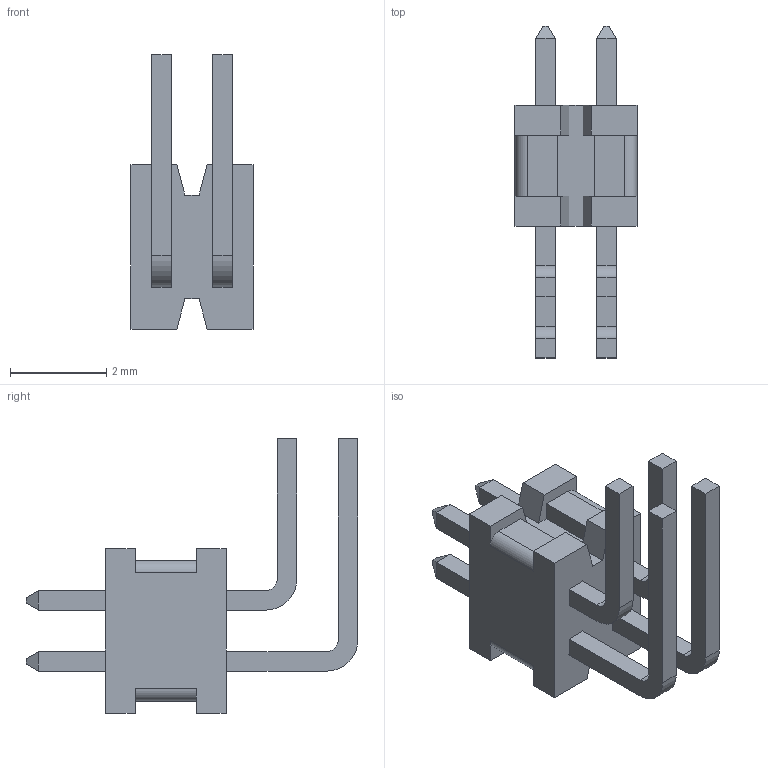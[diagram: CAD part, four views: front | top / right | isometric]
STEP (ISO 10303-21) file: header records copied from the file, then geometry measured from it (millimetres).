
FILE_DESCRIPTION (( 'STEP AP214' ), '1' );
FILE_NAME ('4.STEP', '2020-06-10T19:07:01', ( '' ), ( '' ), 'SwSTEP 2.0', 'SolidWorks 2018', '' );
FILE_SCHEMA (( 'AUTOMOTIVE_DESIGN' ));
Length unit declared in the file: inch
Products named in the file (1): 4
Bounding box: 2.54 x 6.91 x 5.71 mm (x, y, z)
Volume: 23.5 mm3; surface area: 132.3 mm2
Topology: 9 solids, 9 shells, 138 faces, 344 edges, 224 vertices
Faces by surface type: plane 126, cylinder 12
Entity records: 4428 total; most frequent: CARTESIAN_POINT 707, ORIENTED_EDGE 688, DIRECTION 646, EDGE_CURVE 344, VECTOR 320, LINE 320, VERTEX_POINT 224, AXIS2_PLACEMENT_3D 163
